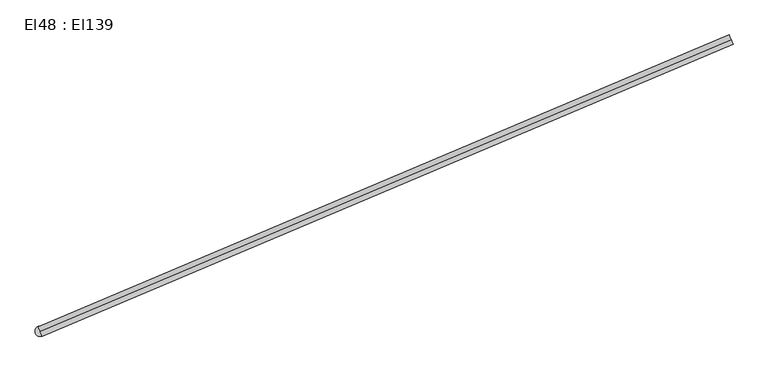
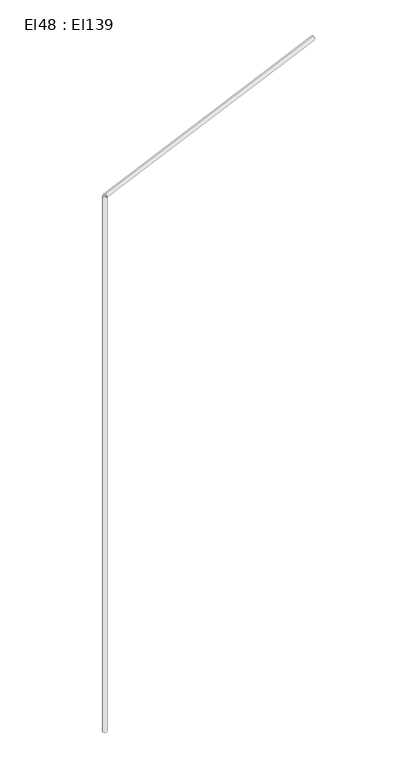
"""IFC4 building model written with IfcOpenShell, lengths in millimetres: cable carrier segment geometry, El48 : El139."""

from ifc_helpers import new_model, si_unit, point, frame, frame_2d, origin, place, context, project, spatial, circle_curve, trimmed, segment, composite_curve, outline, extrude, source, transform, mapped, element, save


def el48_el139_08f326e0(model_context):
    return source(origin(), model_context, "Body", "SweptSolid", [
        extrude(outline(composite_curve([segment(trimmed(circle_curve(frame_2d((0.0, -9.5)), 9.5), [point((0.0, -19.0))], [point((0.0, 0.0))], False, "CARTESIAN"), True, "CONTINUOUS"), segment(trimmed(circle_curve(frame_2d((0.0, -9.5)), 9.5), [point((0.0, 0.0))], [point((0.0, -19.0))], False, "CARTESIAN"), True, "CONTINUOUS")], self_intersect=False)), frame((22494.5136511, 3233.0901745, 4459.5), z_axis=(0.9210776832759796, 0.38937886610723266, 0.0), x_axis=(-0.38937886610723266, 0.9210776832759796, 0.0)), (0.0, 0.0, 1.0), 1383.73),
        extrude(outline(composite_curve([segment(trimmed(circle_curve(frame_2d((22494.5136511, 3233.0901745)), 9.5), [point((22485.0136511, 3233.0901745))], [point((22504.0136511, 3233.0901745))], False, "CARTESIAN"), True, "CONTINUOUS"), segment(trimmed(circle_curve(frame_2d((22494.5136511, 3233.0901745)), 9.5), [point((22504.0136511, 3233.0901745))], [point((22485.0136511, 3233.0901745))], False, "CARTESIAN"), True, "CONTINUOUS")], self_intersect=False)), frame((0.0, 0.0, 1830.0), z_axis=(0.0, 0.0, 1.0), x_axis=(1.0, 0.0, 0.0)), (0.0, 0.0, 1.0), 2620.0),
    ])


if __name__ == "__main__":
    model = new_model("IFC4")
    model_context = context("Model", 3, world=origin())
    ifc_project = project(units=[si_unit("LENGTHUNIT", "METRE", prefix="MILLI")], contexts=[model_context])
    site = spatial("IfcSite", under=ifc_project)
    building = spatial("IfcBuilding", under=site)
    placement = place(None, origin())
    el48_el139_shape = el48_el139_08f326e0(model_context)
    element("IfcCableCarrierSegment", 1, ObjectType="El48 : El139", at=placement, inside=building, context=model_context, shape_type="MappedRepresentation", body=[
        mapped(el48_el139_shape, transform((0.0, 0.0, 0.0), x_axis=(1.0, 0.0, 0.0), y_axis=(0.0, 1.0, 0.0), z_axis=(0.0, 0.0, 1.0))),
    ])
    save(model, "model.ifc")
